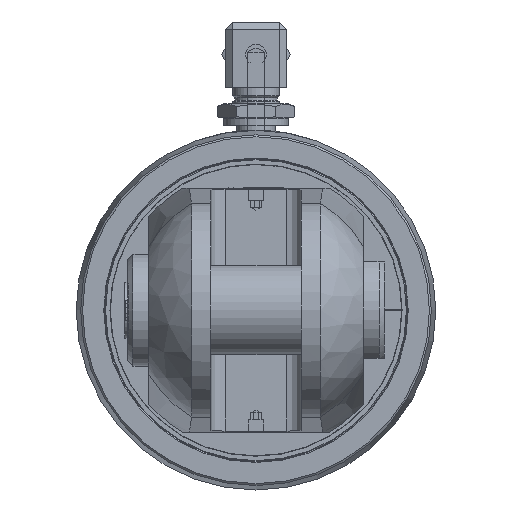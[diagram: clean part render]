
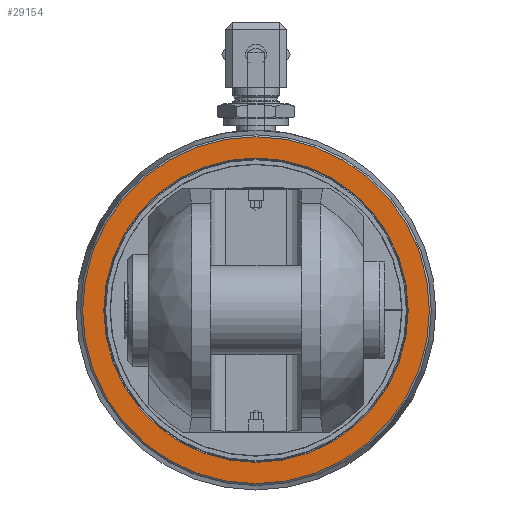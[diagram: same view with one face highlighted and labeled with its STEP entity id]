
A CAD part, left-side view. The second image highlights one B-rep face of the part: STEP entity #29154.
In plain terms, the highlighted planar face has unit normal (-1, 0, 0).
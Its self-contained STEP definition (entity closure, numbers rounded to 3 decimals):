
#162=CIRCLE('',#30876,49.288);
#164=CIRCLE('',#30880,43.25);
#1019=PLANE('',#30879);
#3497=FACE_BOUND('',#5527,.T.);
#3855=FACE_OUTER_BOUND('',#5526,.T.);
#5526=EDGE_LOOP('',(#21120));
#5527=EDGE_LOOP('',(#21121));
#13876=VERTEX_POINT('',#38060);
#13878=VERTEX_POINT('',#38066);
#16736=EDGE_CURVE('',#13876,#13876,#162,.T.);
#16738=EDGE_CURVE('',#13878,#13878,#164,.T.);
#21120=ORIENTED_EDGE('',*,*,#16736,.F.);
#21121=ORIENTED_EDGE('',*,*,#16738,.F.);
#29154=ADVANCED_FACE('',(#3855,#3497),#1019,.F.);
#30876=AXIS2_PLACEMENT_3D('',#38061,#32530,#32531);
#30879=AXIS2_PLACEMENT_3D('',#38065,#32536,#32537);
#30880=AXIS2_PLACEMENT_3D('',#38067,#32538,#32539);
#32530=DIRECTION('center_axis',(1.,0.,0.));
#32531=DIRECTION('ref_axis',(0.,-1.,0.));
#32536=DIRECTION('center_axis',(1.,0.,0.));
#32537=DIRECTION('ref_axis',(0.,0.,-1.));
#32538=DIRECTION('center_axis',(-1.,0.,0.));
#32539=DIRECTION('ref_axis',(0.,-1.,0.));
#38060=CARTESIAN_POINT('',(-1336.5,49.288,0.));
#38061=CARTESIAN_POINT('Origin',(-1336.5,0.,0.));
#38065=CARTESIAN_POINT('Origin',(-1336.5,0.,0.));
#38066=CARTESIAN_POINT('',(-1336.5,43.25,0.));
#38067=CARTESIAN_POINT('Origin',(-1336.5,0.,0.));
